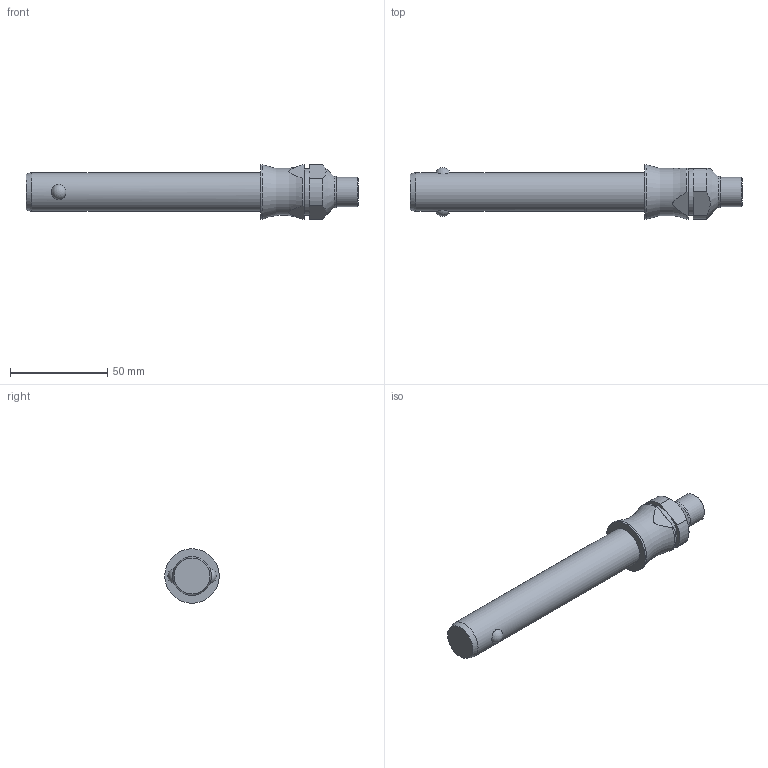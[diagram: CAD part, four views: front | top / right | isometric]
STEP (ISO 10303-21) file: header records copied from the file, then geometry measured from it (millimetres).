
FILE_DESCRIPTION( ( 'STEP AP203' ), '1' );
FILE_NAME( 'C:/Temp/Ganter_Step_05_03_2020/data/3_1/gn113_3/Stainless Steel-Ball lock pin GN 113.3-20-100 (deactivated).stp', '2020-03-12T08:19:05', ( 'License CC BY-ND 4.0' ), ( 'CADENAS' ), ' ', 'PARTsolutions', ' ' );
FILE_SCHEMA( ( 'CONFIG_CONTROL_DESIGN' ) );
Length unit declared in the file: millimetre
Products named in the file (1): _Stainless Steel-Ball lock pin GN 113.3-20-100 (deactivated)
Bounding box: 170.6 x 28 x 28 mm (x, y, z)
Volume: 58657.2 mm3; surface area: 12335.3 mm2
Topology: 1 solids, 1 shells, 29 faces, 62 edges, 40 vertices
Faces by surface type: plane 11, cylinder 11, cone 4, sphere 2, torus 1
Full cylindrical faces by diameter (mm): 15 x1, 16 x1, 20 x1, 24 x1, 28 x1
Entity records: 1010 total; most frequent: CARTESIAN_POINT 380, DIRECTION 126, ORIENTED_EDGE 100, AXIS2_PLACEMENT_3D 54, EDGE_CURVE 50, EDGE_LOOP 44, VERTEX_POINT 38, FACE_OUTER_BOUND 35
